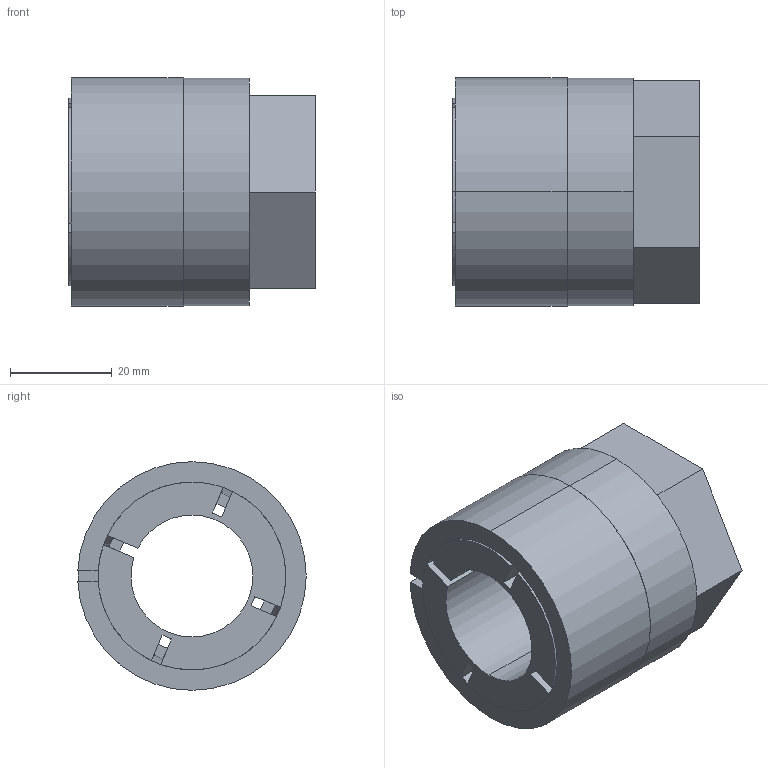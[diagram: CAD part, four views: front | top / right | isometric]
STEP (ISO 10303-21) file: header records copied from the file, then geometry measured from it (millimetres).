
FILE_DESCRIPTION (( 'STEP AP203' ), '1' );
FILE_NAME ('KBS 56 - 24 x 45.STEP', '2015-07-07T20:22:01', ( '' ), ( '' ), 'SwSTEP 2.0', 'SolidWorks 2010', '' );
FILE_SCHEMA (( 'CONFIG_CONTROL_DESIGN' ));
Length unit declared in the file: millimetre
Products named in the file (1): KBS 56 - 24 x 45
Bounding box: 48.5 x 44.98 x 45 mm (x, y, z)
Volume: 48480 mm3; surface area: 25335.4 mm2
Topology: 3 solids, 3 shells, 53 faces, 138 edges, 92 vertices
Faces by surface type: plane 30, cylinder 15, cone 8
Entity records: 1731 total; most frequent: CARTESIAN_POINT 320, DIRECTION 282, ORIENTED_EDGE 276, EDGE_CURVE 138, AXIS2_PLACEMENT_3D 100, VERTEX_POINT 92, LINE 82, VECTOR 82
